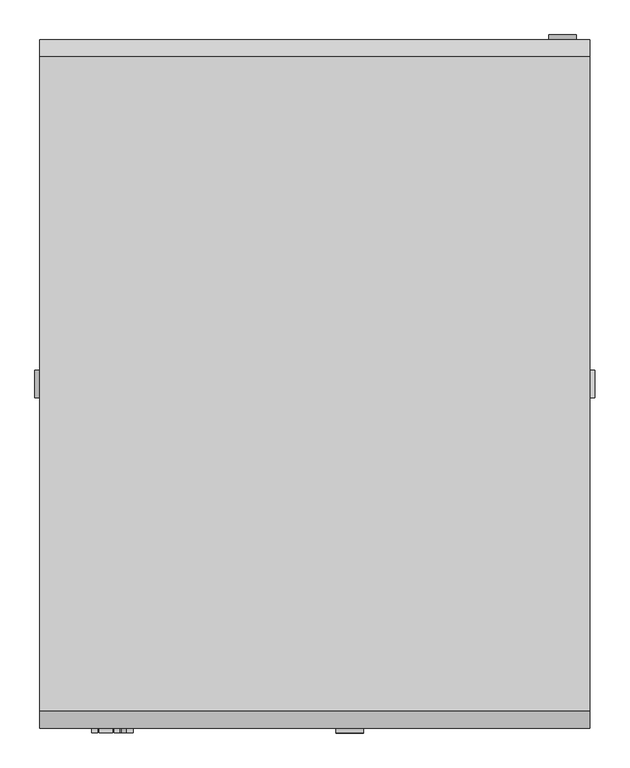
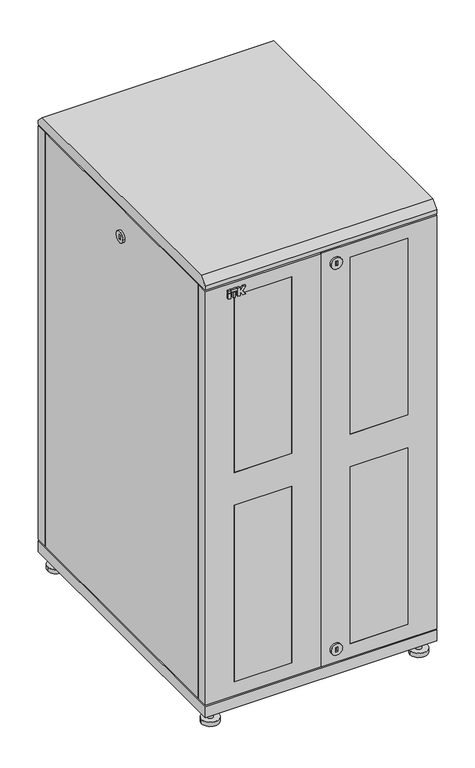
"""IFC4 building model written with IfcOpenShell, lengths in millimetres: proxy geometry, Шкафы ITK серия S_2PP : LS05-33U81-2PP-1."""

from ifc_helpers import new_model, si_unit, point, frame, frame_2d, origin, origin_with_axes, place, context, project, spatial, polyline, circle_curve, trimmed, segment, composite_curve, outline, extrude, faceted_brep, source, transform, mapped, element, save


def electrical_fixtures_ec9818e4(model_context):
    return source(origin(), model_context, "Body", "SolidModel", [
        extrude(outline(composite_curve([segment(trimmed(circle_curve(frame_2d((145.0, 50.5)), 20.0), [point((145.0, 30.5))], [point((145.0, 70.5))], False, "CARTESIAN"), True, "CONTINUOUS"), segment(trimmed(circle_curve(frame_2d((145.0, 50.5)), 20.0), [point((145.0, 70.5))], [point((145.0, 30.5))], False, "CARTESIAN"), True, "CONTINUOUS")], self_intersect=False), holes=[polyline([(136.7814397, 53.5), (136.7814397, 47.5), (153.2185603, 47.5), (153.2185603, 53.5), (136.7814397, 53.5)])]), frame((0.0, -507.0, 0.0), z_axis=(0.0, 1.0, 0.0), x_axis=(0.0, 0.0, 1.0)), (0.0, 0.0, 1.0), 7.0),
        extrude(outline(composite_curve([segment(trimmed(circle_curve(frame_2d((1555.0, 50.5)), 20.0), [point((1555.0, 30.5))], [point((1555.0, 70.5))], False, "CARTESIAN"), True, "CONTINUOUS"), segment(trimmed(circle_curve(frame_2d((1555.0, 50.5)), 20.0), [point((1555.0, 70.5))], [point((1555.0, 30.5))], False, "CARTESIAN"), True, "CONTINUOUS")], self_intersect=False), holes=[polyline([(1546.7814397, 53.5), (1546.7814397, 47.5), (1563.2185603, 47.5), (1563.2185603, 53.5), (1546.7814397, 53.5)])]), frame((0.0, -507.0, 0.0), z_axis=(0.0, 1.0, 0.0), x_axis=(0.0, 0.0, 1.0)), (0.0, 0.0, 1.0), 7.0),
        extrude(outline(polyline([(-315.9746193, -507.0), (-324.197592, -507.0), (-324.197592, -500.0), (-315.9746193, -500.0), (-315.9746193, -507.0)])), frame((0.0, 0.0, 1555.0), z_axis=(0.0, 0.0, 1.0), x_axis=(1.0, 0.0, 0.0)), (0.0, 0.0, 1.0), 18.8087618),
        extrude(outline(polyline([(-299.9605777, -507.0), (-307.7053315, -507.0), (-307.7053315, -500.0), (-299.9605777, -500.0), (-299.9605777, -507.0)])), frame((0.0, 0.0, 1555.0), z_axis=(0.0, 0.0, 1.0), x_axis=(1.0, 0.0, 0.0)), (0.0, 0.0, 1.0), 18.8087618),
        extrude(outline(polyline([(-315.9746193, -507.0), (-324.197592, -507.0), (-324.197592, -500.0), (-315.9746193, -500.0), (-315.9746193, -507.0)])), frame((0.0, 0.0, 1576.4305892), z_axis=(0.0, 0.0, 1.0), x_axis=(1.0, 0.0, 0.0)), (0.0, 0.0, 1.0), 7.9794747),
        extrude(outline(polyline([(1555.0, -291.5184175), (1555.0, -283.7669278), (1566.0271455, -283.7669278), (1566.0271455, -280.8031229), (1555.0, -273.6420108), (1555.0, -264.197592), (1569.7278745, -274.8980192), (1584.410064, -264.197592), (1584.410064, -273.6420108), (1573.3829184, -280.8031229), (1573.3829184, -283.7669278), (1584.410064, -283.7669278), (1584.410064, -291.5184175), (1555.0, -291.5184175)])), frame((0.0, -507.0, 0.0), z_axis=(0.0, 1.0, 0.0), x_axis=(0.0, 0.0, 1.0)), (0.0, 0.0, 1.0), 7.0),
        extrude(outline(polyline([(-294.0851324, -507.0), (-313.5807768, -507.0), (-313.5807768, -500.0), (-294.0851324, -500.0), (-294.0851324, -507.0)])), frame((0.0, 0.0, 1576.4305892), z_axis=(0.0, 0.0, 1.0), x_axis=(1.0, 0.0, 0.0)), (0.0, 0.0, 1.0), 7.9794747),
        faceted_brep([(-360.0, -480.0, 1605.0), (-360.0, -445.0, 1605.0), (-370.0, -445.0, 1605.0), (-370.0, -460.0, 1605.0), (-400.0, -460.0, 1605.0), (-400.0, -500.0, 1605.0), (-1.0, -500.0, 1605.0), (-1.0, -480.0, 1605.0), (-400.0, -500.0, 95.0), (-400.0, -460.0, 95.0), (-370.0, -460.0, 95.0), (-370.0, -445.0, 95.0), (-360.0, -445.0, 95.0), (-360.0, -480.0, 95.0), (-1.0, -480.0, 95.0), (-1.0, -500.0, 95.0), (-300.0, -500.0, 790.0), (-101.0, -500.0, 790.0), (-101.0, -500.0, 145.0), (-300.0, -500.0, 145.0), (-300.0, -500.0, 1555.0), (-101.0, -500.0, 1555.0), (-101.0, -500.0, 910.0), (-300.0, -500.0, 910.0), (-300.0, -480.0, 910.0), (-101.0, -480.0, 910.0), (-101.0, -480.0, 1555.0), (-300.0, -480.0, 1555.0), (-300.0, -480.0, 145.0), (-101.0, -480.0, 145.0), (-101.0, -480.0, 790.0), (-300.0, -480.0, 790.0)], [[[0, 1, 2, 3, 4, 5, 6, 7]], [[8, 9, 10, 11, 12, 13, 14, 15]], [[6, 5, 8, 15], [16, 17, 18, 19], [20, 21, 22, 23]], [[5, 4, 9, 8]], [[4, 3, 10, 9]], [[0, 7, 14, 13], [24, 25, 26, 27], [28, 29, 30, 31]], [[24, 27, 20, 23]], [[28, 31, 16, 19]], [[23, 22, 25, 24]], [[17, 16, 31, 30]], [[1, 0, 13, 12]], [[2, 1, 12, 11]], [[3, 2, 11, 10]], [[26, 25, 22, 21]], [[30, 29, 18, 17]], [[7, 6, 15, 14]], [[21, 20, 27, 26]], [[19, 18, 29, 28]]]),
        faceted_brep([(1.0, -480.0, 1605.0), (1.0, -500.0, 1605.0), (400.0, -500.0, 1605.0), (400.0, -460.0, 1605.0), (370.0, -460.0, 1605.0), (370.0, -445.0, 1605.0), (360.0, -445.0, 1605.0), (360.0, -480.0, 1605.0), (1.0, -500.0, 95.0), (1.0, -480.0, 95.0), (360.0, -480.0, 95.0), (360.0, -445.0, 95.0), (370.0, -445.0, 95.0), (370.0, -460.0, 95.0), (400.0, -460.0, 95.0), (400.0, -500.0, 95.0), (300.0, -500.0, 910.0), (101.0, -500.0, 910.0), (101.0, -500.0, 1555.0), (300.0, -500.0, 1555.0), (300.0, -500.0, 145.0), (101.0, -500.0, 145.0), (101.0, -500.0, 790.0), (300.0, -500.0, 790.0), (300.0, -480.0, 790.0), (101.0, -480.0, 790.0), (101.0, -480.0, 145.0), (300.0, -480.0, 145.0), (300.0, -480.0, 1555.0), (101.0, -480.0, 1555.0), (101.0, -480.0, 910.0), (300.0, -480.0, 910.0)], [[[0, 1, 2, 3, 4, 5, 6, 7]], [[8, 9, 10, 11, 12, 13, 14, 15]], [[2, 1, 8, 15], [16, 17, 18, 19], [20, 21, 22, 23]], [[10, 9, 0, 7], [24, 25, 26, 27], [28, 29, 30, 31]], [[24, 27, 20, 23]], [[28, 31, 16, 19]], [[3, 2, 15, 14]], [[4, 3, 14, 13]], [[5, 4, 13, 12]], [[6, 5, 12, 11]], [[7, 6, 11, 10]], [[1, 0, 9, 8]], [[26, 25, 22, 21]], [[30, 29, 18, 17]], [[17, 16, 31, 30]], [[23, 22, 25, 24]], [[19, 18, 29, 28]], [[21, 20, 27, 26]]]),
        extrude(outline(polyline([(-101.0, -500.0), (-300.0, -500.0), (-300.0, -480.0), (-101.0, -480.0), (-101.0, -500.0)])), frame((0.0, 0.0, 910.0), z_axis=(0.0, 0.0, 1.0), x_axis=(1.0, 0.0, 0.0)), (0.0, 0.0, 1.0), 645.0),
        extrude(outline(polyline([(-101.0, -500.0), (-300.0, -500.0), (-300.0, -480.0), (-101.0, -480.0), (-101.0, -500.0)])), frame((0.0, 0.0, 145.0), z_axis=(0.0, 0.0, 1.0), x_axis=(1.0, 0.0, 0.0)), (0.0, 0.0, 1.0), 645.0),
        extrude(outline(polyline([(300.0, -500.0), (101.0, -500.0), (101.0, -480.0), (300.0, -480.0), (300.0, -500.0)])), frame((0.0, 0.0, 910.0), z_axis=(0.0, 0.0, 1.0), x_axis=(1.0, 0.0, 0.0)), (0.0, 0.0, 1.0), 645.0),
        extrude(outline(polyline([(300.0, -500.0), (101.0, -500.0), (101.0, -480.0), (300.0, -480.0), (300.0, -500.0)])), frame((0.0, 0.0, 145.0), z_axis=(0.0, 0.0, 1.0), x_axis=(1.0, 0.0, 0.0)), (0.0, 0.0, 1.0), 645.0),
        extrude(outline(composite_curve([segment(trimmed(circle_curve(frame_2d((-360.0, 460.0)), 10.0), [point((-350.0, 460.0))], [point((-370.0, 460.0))], False, "CARTESIAN"), True, "CONTINUOUS"), segment(trimmed(circle_curve(frame_2d((-360.0, 460.0)), 10.0), [point((-370.0, 460.0))], [point((-350.0, 460.0))], False, "CARTESIAN"), True, "CONTINUOUS")], self_intersect=False)), frame((0.0, 0.0, 15.0), z_axis=(0.0, 0.0, 1.0), x_axis=(1.0, 0.0, 0.0)), (0.0, 0.0, 1.0), 35.0),
        extrude(outline(composite_curve([segment(trimmed(circle_curve(frame_2d((360.0, 460.0)), 10.0), [point((370.0, 460.0))], [point((350.0, 460.0))], False, "CARTESIAN"), True, "CONTINUOUS"), segment(trimmed(circle_curve(frame_2d((360.0, 460.0)), 10.0), [point((350.0, 460.0))], [point((370.0, 460.0))], False, "CARTESIAN"), True, "CONTINUOUS")], self_intersect=False)), frame((0.0, 0.0, 15.0), z_axis=(0.0, 0.0, 1.0), x_axis=(1.0, 0.0, 0.0)), (0.0, 0.0, 1.0), 35.0),
        extrude(outline(composite_curve([segment(trimmed(circle_curve(frame_2d((-360.0, -460.0)), 10.0), [point((-350.0, -460.0))], [point((-370.0, -460.0))], False, "CARTESIAN"), True, "CONTINUOUS"), segment(trimmed(circle_curve(frame_2d((-360.0, -460.0)), 10.0), [point((-370.0, -460.0))], [point((-350.0, -460.0))], False, "CARTESIAN"), True, "CONTINUOUS")], self_intersect=False)), frame((0.0, 0.0, 15.0), z_axis=(0.0, 0.0, 1.0), x_axis=(1.0, 0.0, 0.0)), (0.0, 0.0, 1.0), 35.0),
        extrude(outline(composite_curve([segment(trimmed(circle_curve(frame_2d((360.0, -460.0)), 10.0), [point((370.0, -460.0))], [point((350.0, -460.0))], False, "CARTESIAN"), True, "CONTINUOUS"), segment(trimmed(circle_curve(frame_2d((360.0, -460.0)), 10.0), [point((350.0, -460.0))], [point((370.0, -460.0))], False, "CARTESIAN"), True, "CONTINUOUS")], self_intersect=False)), frame((0.0, 0.0, 15.0), z_axis=(0.0, 0.0, 1.0), x_axis=(1.0, 0.0, 0.0)), (0.0, 0.0, 1.0), 35.0),
        extrude(outline(composite_curve([segment(trimmed(circle_curve(frame_2d((-360.0, 460.0)), 30.0), [point((-330.0, 460.0))], [point((-390.0, 460.0))], False, "CARTESIAN"), True, "CONTINUOUS"), segment(trimmed(circle_curve(frame_2d((-360.0, 460.0)), 30.0), [point((-390.0, 460.0))], [point((-330.0, 460.0))], False, "CARTESIAN"), True, "CONTINUOUS")], self_intersect=False)), origin_with_axes(), (0.0, 0.0, 1.0), 15.0),
        extrude(outline(composite_curve([segment(trimmed(circle_curve(frame_2d((360.0, 460.0)), 30.0), [point((390.0, 460.0))], [point((330.0, 460.0))], False, "CARTESIAN"), True, "CONTINUOUS"), segment(trimmed(circle_curve(frame_2d((360.0, 460.0)), 30.0), [point((330.0, 460.0))], [point((390.0, 460.0))], False, "CARTESIAN"), True, "CONTINUOUS")], self_intersect=False)), origin_with_axes(), (0.0, 0.0, 1.0), 15.0),
        extrude(outline(composite_curve([segment(trimmed(circle_curve(frame_2d((-360.0, -460.0)), 30.0), [point((-330.0, -460.0))], [point((-390.0, -460.0))], False, "CARTESIAN"), True, "CONTINUOUS"), segment(trimmed(circle_curve(frame_2d((-360.0, -460.0)), 30.0), [point((-390.0, -460.0))], [point((-330.0, -460.0))], False, "CARTESIAN"), True, "CONTINUOUS")], self_intersect=False)), origin_with_axes(), (0.0, 0.0, 1.0), 15.0),
        extrude(outline(composite_curve([segment(trimmed(circle_curve(frame_2d((360.0, -460.0)), 30.0), [point((390.0, -460.0))], [point((330.0, -460.0))], False, "CARTESIAN"), True, "CONTINUOUS"), segment(trimmed(circle_curve(frame_2d((360.0, -460.0)), 30.0), [point((330.0, -460.0))], [point((390.0, -460.0))], False, "CARTESIAN"), True, "CONTINUOUS")], self_intersect=False)), origin_with_axes(), (0.0, 0.0, 1.0), 15.0),
        extrude(outline(polyline([(-475.0, 1650.0), (475.0, 1650.0), (500.0, 1625.0), (500.0, 1610.0), (-500.0, 1610.0), (-500.0, 1625.0), (-475.0, 1650.0)])), frame((-400.0, 0.0, 0.0), z_axis=(1.0, 0.0, 0.0), x_axis=(0.0, 1.0, 0.0)), (0.0, 0.0, 1.0), 800.0),
        extrude(outline(polyline([(360.0, 460.0), (360.0, 445.0), (390.0, 445.0), (390.0, -445.0), (360.0, -445.0), (360.0, -460.0), (345.0, -460.0), (345.0, -480.0), (-345.0, -480.0), (-345.0, -460.0), (-360.0, -460.0), (-360.0, -445.0), (-390.0, -445.0), (-390.0, 445.0), (-360.0, 445.0), (-360.0, 460.0), (-345.0, 460.0), (-345.0, 490.0), (345.0, 490.0), (345.0, 460.0), (360.0, 460.0)])), frame((0.0, 0.0, 90.0), z_axis=(0.0, 0.0, 1.0), x_axis=(1.0, 0.0, 0.0)), (0.0, 0.0, 1.0), 5.0),
        extrude(outline(polyline([(360.0, 460.0), (360.0, 445.0), (390.0, 445.0), (390.0, -445.0), (360.0, -445.0), (360.0, -460.0), (345.0, -460.0), (345.0, -480.0), (-345.0, -480.0), (-345.0, -460.0), (-360.0, -460.0), (-360.0, -445.0), (-390.0, -445.0), (-390.0, 445.0), (-360.0, 445.0), (-360.0, 460.0), (-345.0, 460.0), (-345.0, 490.0), (345.0, 490.0), (345.0, 460.0), (360.0, 460.0)])), frame((0.0, 0.0, 1605.0), z_axis=(0.0, 0.0, 1.0), x_axis=(1.0, 0.0, 0.0)), (0.0, 0.0, 1.0), 5.0),
        extrude(outline(polyline([(400.0, -500.0), (-400.0, -500.0), (-400.0, 500.0), (400.0, 500.0), (400.0, -500.0)])), frame((0.0, 0.0, 50.0), z_axis=(0.0, 0.0, 1.0), x_axis=(1.0, 0.0, 0.0)), (0.0, 0.0, 1.0), 40.0),
        extrude(outline(composite_curve([segment(trimmed(circle_curve(frame_2d((1555.0, 360.0)), 20.0), [point((1555.0, 340.0))], [point((1555.0, 380.0))], False, "CARTESIAN"), True, "CONTINUOUS"), segment(trimmed(circle_curve(frame_2d((1555.0, 360.0)), 20.0), [point((1555.0, 380.0))], [point((1555.0, 340.0))], False, "CARTESIAN"), True, "CONTINUOUS")], self_intersect=False), holes=[polyline([(1563.2185603, 363.0), (1546.7814397, 363.0), (1546.7814397, 357.0), (1563.2185603, 357.0), (1563.2185603, 363.0)])]), frame((0.0, 500.0, 0.0), z_axis=(0.0, 1.0, 0.0), x_axis=(0.0, 0.0, 1.0)), (0.0, 0.0, 1.0), 7.0),
        faceted_brep([(360.0, 490.0, 1605.0), (360.0, 445.0, 1605.0), (370.0, 445.0, 1605.0), (370.0, 460.0, 1605.0), (400.0, 460.0, 1605.0), (400.0, 500.0, 1605.0), (-400.0, 500.0, 1605.0), (-400.0, 460.0, 1605.0), (-370.0, 460.0, 1605.0), (-370.0, 445.0, 1605.0), (-360.0, 445.0, 1605.0), (-360.0, 490.0, 1605.0), (400.0, 500.0, 95.0), (400.0, 460.0, 95.0), (370.0, 460.0, 95.0), (370.0, 445.0, 95.0), (360.0, 445.0, 95.0), (360.0, 490.0, 95.0), (-360.0, 490.0, 95.0), (-360.0, 445.0, 95.0), (-370.0, 445.0, 95.0), (-370.0, 460.0, 95.0), (-400.0, 460.0, 95.0), (-400.0, 500.0, 95.0), (-300.0, 500.0, 145.0), (-100.0, 500.0, 145.0), (-100.0, 500.0, 770.0), (-300.0, 500.0, 770.0), (300.0, 500.0, 770.0), (100.0, 500.0, 770.0), (100.0, 500.0, 145.0), (300.0, 500.0, 145.0), (-300.0, 500.0, 890.0), (-100.0, 500.0, 890.0), (-100.0, 500.0, 1555.0), (-300.0, 500.0, 1555.0), (300.0, 500.0, 1555.0), (100.0, 500.0, 1555.0), (100.0, 500.0, 890.0), (300.0, 500.0, 890.0), (-300.0, 490.0, 770.0), (-100.0, 490.0, 770.0), (-100.0, 490.0, 145.0), (-300.0, 490.0, 145.0), (-300.0, 490.0, 1555.0), (-100.0, 490.0, 1555.0), (-100.0, 490.0, 890.0), (-300.0, 490.0, 890.0), (300.0, 490.0, 890.0), (100.0, 490.0, 890.0), (100.0, 490.0, 1555.0), (300.0, 490.0, 1555.0), (300.0, 490.0, 145.0), (100.0, 490.0, 145.0), (100.0, 490.0, 770.0), (300.0, 490.0, 770.0)], [[[0, 1, 2, 3, 4, 5, 6, 7, 8, 9, 10, 11]], [[12, 13, 14, 15, 16, 17, 18, 19, 20, 21, 22, 23]], [[6, 5, 12, 23], [24, 25, 26, 27], [28, 29, 30, 31], [32, 33, 34, 35], [36, 37, 38, 39]], [[7, 6, 23, 22]], [[8, 7, 22, 21]], [[11, 10, 19, 18]], [[0, 11, 18, 17], [40, 41, 42, 43], [44, 45, 46, 47], [48, 49, 50, 51], [52, 53, 54, 55]], [[1, 0, 17, 16]], [[4, 3, 14, 13]], [[5, 4, 13, 12]], [[9, 8, 21, 20]], [[10, 9, 20, 19]], [[2, 1, 16, 15]], [[3, 2, 15, 14]], [[24, 27, 40, 43]], [[32, 35, 44, 47]], [[48, 51, 36, 39]], [[52, 55, 28, 31]], [[54, 53, 30, 29]], [[50, 49, 38, 37]], [[42, 41, 26, 25]], [[46, 45, 34, 33]], [[43, 42, 25, 24]], [[53, 52, 31, 30]], [[49, 48, 39, 38]], [[55, 54, 29, 28]], [[47, 46, 33, 32]], [[41, 40, 27, 26]], [[45, 44, 35, 34]], [[51, 50, 37, 36]]]),
        extrude(outline(polyline([(-100.0, 490.0), (-300.0, 490.0), (-300.0, 500.0), (-100.0, 500.0), (-100.0, 490.0)])), frame((0.0, 0.0, 890.0), z_axis=(0.0, 0.0, 1.0), x_axis=(1.0, 0.0, 0.0)), (0.0, 0.0, 1.0), 665.0),
        extrude(outline(polyline([(300.0, 490.0), (100.0, 490.0), (100.0, 500.0), (300.0, 500.0), (300.0, 490.0)])), frame((0.0, 0.0, 890.0), z_axis=(0.0, 0.0, 1.0), x_axis=(1.0, 0.0, 0.0)), (0.0, 0.0, 1.0), 665.0),
        extrude(outline(polyline([(300.0, 490.0), (100.0, 490.0), (100.0, 500.0), (300.0, 500.0), (300.0, 490.0)])), frame((0.0, 0.0, 145.0), z_axis=(0.0, 0.0, 1.0), x_axis=(1.0, 0.0, 0.0)), (0.0, 0.0, 1.0), 625.0),
        extrude(outline(polyline([(-100.0, 490.0), (-300.0, 490.0), (-300.0, 500.0), (-100.0, 500.0), (-100.0, 490.0)])), frame((0.0, 0.0, 145.0), z_axis=(0.0, 0.0, 1.0), x_axis=(1.0, 0.0, 0.0)), (0.0, 0.0, 1.0), 625.0),
        extrude(outline(composite_curve([segment(trimmed(circle_curve(frame_2d((0.0, 1505.0)), 20.0), [point((-20.0, 1505.0))], [point((20.0, 1505.0))], False, "CARTESIAN"), True, "CONTINUOUS"), segment(trimmed(circle_curve(frame_2d((0.0, 1505.0)), 20.0), [point((20.0, 1505.0))], [point((-20.0, 1505.0))], False, "CARTESIAN"), True, "CONTINUOUS")], self_intersect=False), holes=[polyline([(3.0, 1496.7814397), (3.0, 1513.2185603), (-3.0, 1513.2185603), (-3.0, 1496.7814397), (3.0, 1496.7814397)])]), frame((400.0, 0.0, 0.0), z_axis=(1.0, 0.0, 0.0), x_axis=(0.0, 1.0, 0.0)), (0.0, 0.0, 1.0), 7.0),
        extrude(outline(composite_curve([segment(trimmed(circle_curve(frame_2d((0.0, 1505.0)), 20.0), [point((20.0, 1505.0))], [point((-20.0, 1505.0))], False, "CARTESIAN"), True, "CONTINUOUS"), segment(trimmed(circle_curve(frame_2d((0.0, 1505.0)), 20.0), [point((-20.0, 1505.0))], [point((20.0, 1505.0))], False, "CARTESIAN"), True, "CONTINUOUS")], self_intersect=False), holes=[polyline([(-3.0, 1496.7814397), (3.0, 1496.7814397), (3.0, 1513.2185603), (-3.0, 1513.2185603), (-3.0, 1496.7814397)])]), frame((-407.0, 0.0, 0.0), z_axis=(1.0, 0.0, 0.0), x_axis=(0.0, 1.0, 0.0)), (0.0, 0.0, 1.0), 7.0),
        extrude(outline(polyline([(-370.0, 455.0), (-370.0, 445.0), (-389.9803177, 445.0), (-389.9803177, -445.0), (-369.9803177, -445.0), (-369.9803177, -455.0), (-400.0, -455.0), (-400.0, 455.0), (-370.0, 455.0)])), frame((0.0, 0.0, 95.0), z_axis=(0.0, 0.0, 1.0), x_axis=(1.0, 0.0, 0.0)), (0.0, 0.0, 1.0), 1510.0),
        extrude(outline(polyline([(369.9803177, 455.0), (400.0, 455.0), (400.0, -455.0), (369.9803177, -455.0), (369.9803177, -445.0), (389.9803177, -445.0), (389.9803177, 445.0), (369.9803177, 445.0), (369.9803177, 455.0)])), frame((0.0, 0.0, 95.0), z_axis=(0.0, 0.0, 1.0), x_axis=(1.0, 0.0, 0.0)), (0.0, 0.0, 1.0), 1510.0),
    ])


if __name__ == "__main__":
    model = new_model("IFC4")
    model_context = context("Model", 3, world=origin())
    ifc_project = project(units=[si_unit("LENGTHUNIT", "METRE", prefix="MILLI")], contexts=[model_context])
    site = spatial("IfcSite", under=ifc_project)
    building = spatial("IfcBuilding", under=site)
    placement = place(None, origin())
    electrical_fixtures_shape = electrical_fixtures_ec9818e4(model_context)
    element("IfcBuildingElementProxy", 1, Name="Шкафы ITK серия S_2PP : LS05-33U81-2PP-1", ObjectType="Шкафы ITK серия S_2PP : LS05-33U81-2PP-1", at=placement, inside=building, context=model_context, shape_type="MappedRepresentation", body=[
        mapped(electrical_fixtures_shape, transform((0.0, 0.0, 0.0), x_axis=(1.0, 0.0, 0.0), y_axis=(0.0, 1.0, 0.0), z_axis=(0.0, 0.0, 1.0))),
    ])
    save(model, "model.ifc")
